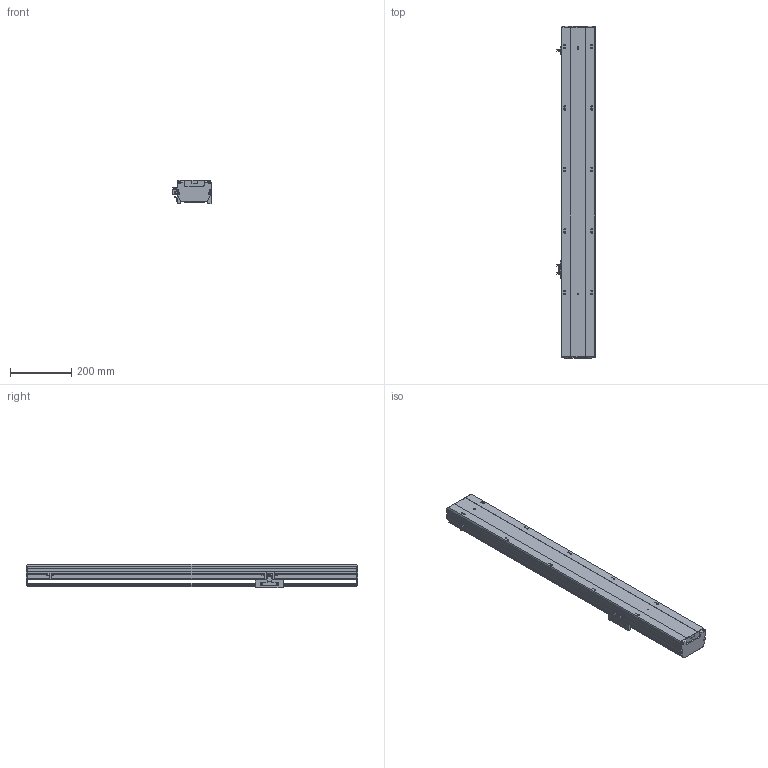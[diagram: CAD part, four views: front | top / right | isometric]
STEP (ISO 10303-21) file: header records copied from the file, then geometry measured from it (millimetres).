
FILE_DESCRIPTION (( 'STEP AP203' ), '1' );
FILE_NAME ('14.STEP', '2020-11-06T08:43:36', ( '' ), ( '' ), 'SwSTEP 2.0', 'SolidWorks 2016', '' );
FILE_SCHEMA (( 'CONFIG_CONTROL_DESIGN' ));
Length unit declared in the file: millimetre
Products named in the file (6): BTH11-M-HZ; BTH11-M-01; BTH11-M-02; BTH11-M-菁釱; BTH11-M-04; 14
Assembly tree (7 placements, depth 2):
  14
    BTH11-M-菁釱
    BTH11-M-01
    BTH11-M-02
    BTH11-M-04  x3
    BTH11-M-HZ
Bounding box: 123.7 x 1080 x 76 mm (x, y, z)
Volume: 3834342.4 mm3; surface area: 782911.5 mm2
Topology: 9 solids, 9 shells, 907 faces, 2504 edges, 1624 vertices
Faces by surface type: plane 558, cylinder 293, cone 56
Entity records: 22529 total; most frequent: CARTESIAN_POINT 4511, ORIENTED_EDGE 3660, DIRECTION 3586, EDGE_CURVE 1830, VECTOR 1208, LINE 1208, VERTEX_POINT 1200, AXIS2_PLACEMENT_3D 1189
